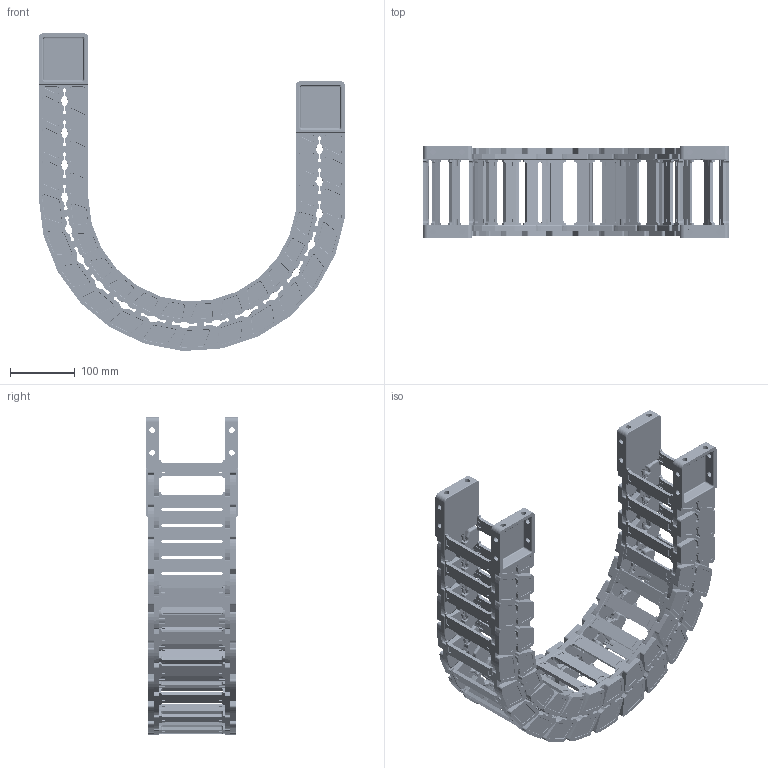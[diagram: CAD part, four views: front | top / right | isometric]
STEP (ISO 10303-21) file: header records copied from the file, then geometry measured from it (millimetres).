
FILE_DESCRIPTION((''),'2;1');
FILE_NAME('65X100-R200_ASM','2026-02-27T11:39:31',('admin'),(''),'CREO PARAMETRIC BY PTC INC, 2021023','CREO PARAMETRIC BY PTC INC, 2021023','');
FILE_SCHEMA(('CONFIG_CONTROL_DESIGN'));
Length unit declared in the file: millimetre
Products named in the file (9): 65ZT-R115-L; 25QSYP; 65ZT-R115-R; ASM0001_ASM; 65-LTT-A1; 65-LTT-A2; 65-LTT-B1; 65-LTT-B2; 65X100-R200_ASM
Assembly tree (29 placements, depth 3):
  65X100-R200_ASM
    ASM0001_ASM  x17
      65ZT-R115-L
      25QSYP
      65ZT-R115-R
    65-LTT-A1
    65-LTT-A2
    65-LTT-B1
    65-LTT-B2
    25QSYP  x4
Bounding box: 472.39 x 141 x 490.06 mm (x, y, z)
Volume: 2452469.1 mm3; surface area: 876761.2 mm2
Topology: 76 solids, 76 shells, 9082 faces, 24688 edges, 15550 vertices
Faces by surface type: plane 3442, cylinder 3142, bspline 1130, cone 552, torus 348, extrusion 252, sphere 216
Entity records: 42147 total; most frequent: CARTESIAN_POINT 14717, ORIENTED_EDGE 5932, DIRECTION 5426, EDGE_CURVE 2966, AXIS2_PLACEMENT_3D 1969, VERTEX_POINT 1874, VECTOR 1488, LINE 1460
